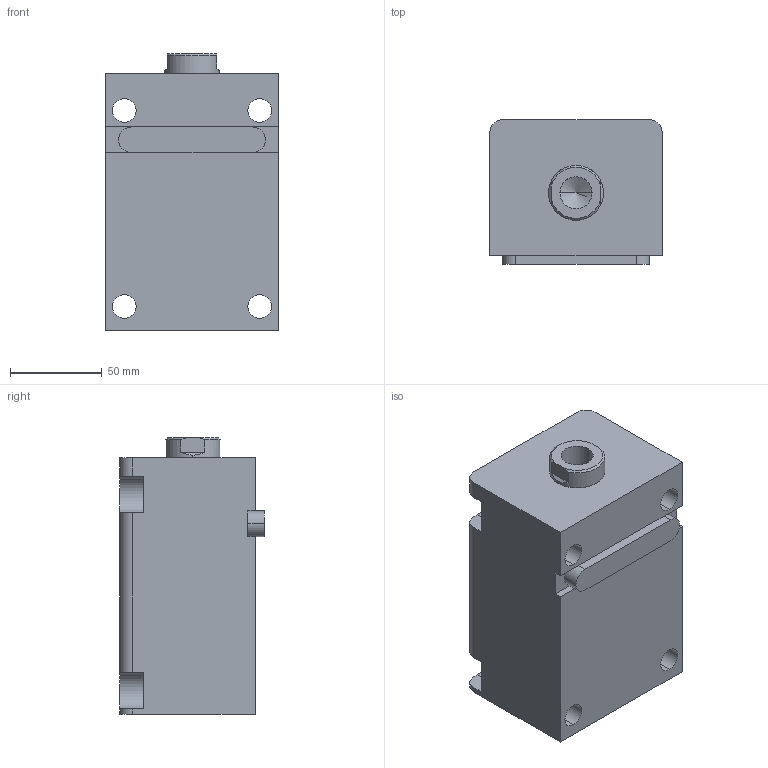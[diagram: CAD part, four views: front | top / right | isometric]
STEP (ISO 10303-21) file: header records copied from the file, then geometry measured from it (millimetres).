
FILE_DESCRIPTION (( 'STEP AP203' ), '1' );
FILE_NAME ('HTB-LA50-80N.STEP', '2019-10-09T07:12:45', ( '微软用户' ), ( '微软中国' ), 'SwSTEP 2.0', 'SolidWorks 2012', '' );
FILE_SCHEMA (( 'CONFIG_CONTROL_DESIGN' ));
Length unit declared in the file: millimetre
Products named in the file (4): HTB-LA50-80N活塞杆; HTB-LA50-80掛极; HTB-LA50-瑩; HTB-LA50-80N
Assembly tree (3 placements, depth 2):
  HTB-LA50-80N
    HTB-LA50-80掛极
    HTB-LA50-80N活塞杆
    HTB-LA50-瑩
Bounding box: 94 x 79 x 151 mm (x, y, z)
Volume: 823156.5 mm3; surface area: 116803.9 mm2
Topology: 3 solids, 3 shells, 86 faces, 213 edges, 139 vertices
Faces by surface type: plane 39, cylinder 35, cone 8, torus 4
Entity records: 3001 total; most frequent: DIRECTION 475, CARTESIAN_POINT 470, ORIENTED_EDGE 422, EDGE_CURVE 211, AXIS2_PLACEMENT_3D 180, VERTEX_POINT 139, LINE 115, VECTOR 115
